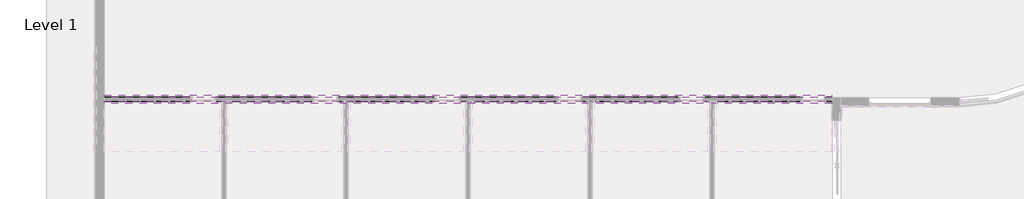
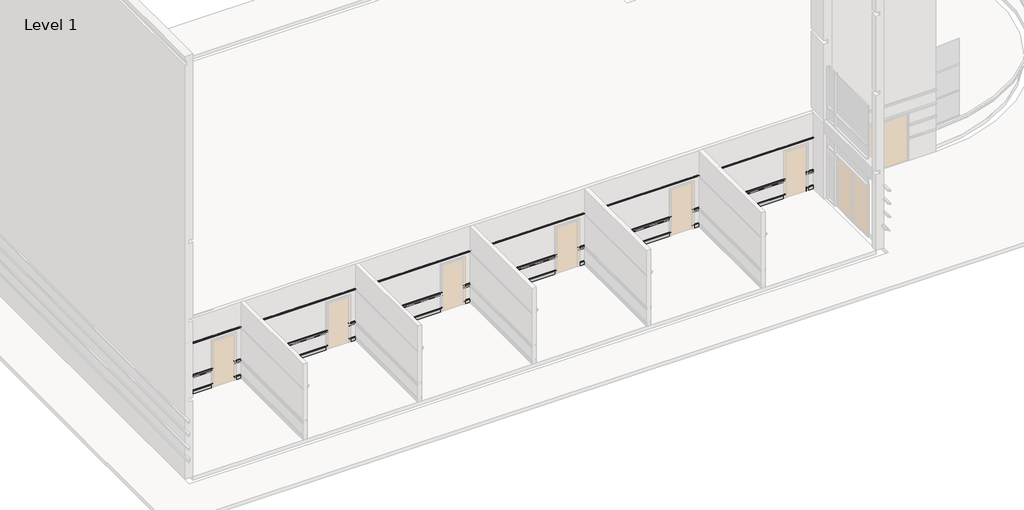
# One storey, part 17 of 20: 6 proxies.
"""IFC4 building model written with IfcOpenShell, lengths in millimetres."""

import ifcopenshell
import ifcopenshell.guid

model = None  # the IFC model being written
_history = None  # IfcOwnerHistory: only IFC2X3 demands one
_inside = {}  # id of a spatial element -> (the spatial element, [elements in it])
_under = {}  # id of a project, library or spatial element -> (it, [spatial elements below it])
_declared = {}  # id of a project -> (the project, [libraries it declares])
_typed = {}  # id of a type object -> (the type object, [elements of that type])
_made_of = {}  # id of a material, layer set ... -> (it, [elements and type objects made of it])


def new_model(schema):
    """Start an empty IFC model of exactly this schema.

    Asked for "IFC4X3", IfcOpenShell would pick the latest addendum, in which some entities
    have other attributes; the version numbers below select the first issue.
    IFC2X3 requires an IfcOwnerHistory on every rooted entity: one is made here for all.
    """
    global model, _history
    if schema == "IFC4X3":
        model = ifcopenshell.file(schema_version=(4, 3, 0, 0))
    else:
        model = ifcopenshell.file(schema=schema)
    _inside.clear()
    _under.clear()
    _declared.clear()
    _typed.clear()
    _made_of.clear()
    _history = None
    if model.schema == "IFC2X3":
        org = make("IfcOrganization", Name="unknown")
        user = make(
            "IfcPersonAndOrganization",
            ThePerson=make("IfcPerson", FamilyName="unknown"),
            TheOrganization=org,
        )
        app = make(
            "IfcApplication",
            ApplicationDeveloper=org,
            Version="unknown",
            ApplicationFullName="unknown",
            ApplicationIdentifier="unknown",
        )
        _history = make(
            "IfcOwnerHistory",
            OwningUser=user,
            OwningApplication=app,
            ChangeAction="ADDED",
            CreationDate=0,
        )
    return model


def make(cls, **values):
    """One entity of the class cls with the attributes given. An attribute that is None is left unset."""
    return model.create_entity(
        cls, **{name: value for name, value in values.items() if value is not None}
    )


def rooted(cls, **values):
    """An entity with a GlobalId (a new one), such as an element, a storey or a relation."""
    return make(cls, GlobalId=ifcopenshell.guid.new(), OwnerHistory=_history, **values)


def si_unit(unit_type, name, prefix=None):
    """IfcSIUnit, for example si_unit("LENGTHUNIT", "METRE", prefix="MILLI")."""
    return make("IfcSIUnit", UnitType=unit_type, Prefix=prefix, Name=name)


def assignment(units):
    """IfcUnitAssignment: the units of a project."""
    return None if units is None else make("IfcUnitAssignment", Units=units)


def point(xyz):
    """IfcCartesianPoint."""
    return None if xyz is None else make("IfcCartesianPoint", Coordinates=xyz)


def direction(xyz):
    """IfcDirection."""
    return None if xyz is None else make("IfcDirection", DirectionRatios=xyz)


def frame(location, z_axis=None, x_axis=None):
    """IfcAxis2Placement3D, a coordinate frame: its origin and axes. An axis left out is left unset."""
    return make(
        "IfcAxis2Placement3D",
        Location=point(location),
        Axis=direction(z_axis),
        RefDirection=direction(x_axis),
    )


def frame_2d(location, x_axis=None):
    """IfcAxis2Placement2D, a coordinate frame in the plane: its origin and x axis."""
    return make(
        "IfcAxis2Placement2D", Location=point(location), RefDirection=direction(x_axis)
    )


def origin():
    """The frame at (0, 0, 0) with its axes left unset."""
    return frame((0.0, 0.0, 0.0))


def place(relative_to, where):
    """IfcLocalPlacement: puts the frame where relative to a parent placement (None: the world)."""
    return make(
        "IfcLocalPlacement", PlacementRelTo=relative_to, RelativePlacement=where
    )


def context(
    kind, dimensions, precision=None, world=None, true_north=None, identifier=None
):
    """IfcGeometricRepresentationContext, for example the 3D "Model" context."""
    return make(
        "IfcGeometricRepresentationContext",
        ContextIdentifier=identifier,
        ContextType=kind,
        CoordinateSpaceDimension=dimensions,
        Precision=precision,
        WorldCoordinateSystem=world,
        TrueNorth=true_north,
    )


def project(units=None, contexts=None):
    """IfcProject with its units and contexts."""
    return rooted(
        "IfcProject",
        Name="project",
        RepresentationContexts=contexts,
        UnitsInContext=assignment(units),
    )


def spatial(cls, under=None, at=None, **own):
    """A site, building, storey or space (cls), placed at a placement, below another one or the project."""
    s = rooted(cls, ObjectPlacement=at, **own)
    if under is not None:
        _under.setdefault(under.id(), (under, []))[1].append(s)
    return s


def polyline(points):
    """IfcPolyline through the points."""
    return make("IfcPolyline", Points=[point(p) for p in points])


def circle_curve(where, radius):
    """IfcCircle in the frame where."""
    return make("IfcCircle", Position=where, Radius=radius)


def trimmed(basis, trim1, trim2, sense, master):
    """IfcTrimmedCurve: the piece of a basis curve between two trims."""
    return make(
        "IfcTrimmedCurve",
        BasisCurve=basis,
        Trim1=trim1,
        Trim2=trim2,
        SenseAgreement=sense,
        MasterRepresentation=master,
    )


def segment(curve, same_sense, transition):
    """IfcCompositeCurveSegment."""
    return make(
        "IfcCompositeCurveSegment",
        Transition=transition,
        SameSense=same_sense,
        ParentCurve=curve,
    )


def composite_curve(segments, self_intersect=None):
    """IfcCompositeCurve: segments joined end to end."""
    return make("IfcCompositeCurve", Segments=segments, SelfIntersect=self_intersect)


def outline(outer, holes=None, kind="AREA"):
    """IfcArbitraryClosedProfileDef: a profile drawn as a closed curve; with holes, ...WithVoids."""
    if holes is None:
        return make("IfcArbitraryClosedProfileDef", ProfileType=kind, OuterCurve=outer)
    return make(
        "IfcArbitraryProfileDefWithVoids",
        ProfileType=kind,
        OuterCurve=outer,
        InnerCurves=holes,
    )


def extrude(swept, where, along, depth):
    """IfcExtrudedAreaSolid: the profile swept, set in the frame where, extruded along a direction by depth."""
    return make(
        "IfcExtrudedAreaSolid",
        SweptArea=swept,
        Position=where,
        ExtrudedDirection=direction(along),
        Depth=depth,
    )


def shape(context_of_items, identifier, shape_type, items):
    """IfcShapeRepresentation: the items that make up one representation, for example the "Body"."""
    return make(
        "IfcShapeRepresentation",
        ContextOfItems=context_of_items,
        RepresentationIdentifier=identifier,
        RepresentationType=shape_type,
        Items=items,
    )


def made_of(thing, what):
    """Note that an element or type object is made of a material, layer set ...; save() writes the relation."""
    if what is not None:
        _made_of.setdefault(what.id(), (what, []))[1].append(thing)
    return thing


def element(
    cls,
    number,
    at=None,
    inside=None,
    cuts=None,
    type_object=None,
    material=None,
    context=None,
    identifier="Body",
    shape_type=None,
    held_by="IfcProductDefinitionShape",
    body=None,
    shapes=None,
    **own,
):
    """One element of the class cls, such as IfcWall. Its Tag is "e" and its number.

    at: its placement. inside: the storey or other place that contains it. cuts: it is an
    opening in that element (IfcRelVoidsElement). A single representation is given by context,
    identifier, shape_type and body (its items); several are given by shapes. held_by: the class
    of the entity that holds the representations. save() writes the other relations.
    """
    e = rooted(cls, Tag="e%d" % number, ObjectPlacement=at, **own)
    if body is not None:
        shapes = [shape(context, identifier, shape_type, body)]
    if shapes is not None:
        e.Representation = make(held_by, Representations=shapes)
    if inside is not None:
        _inside.setdefault(inside.id(), (inside, []))[1].append(e)
    if cuts is not None:
        rooted(
            "IfcRelVoidsElement", RelatingBuildingElement=cuts, RelatedOpeningElement=e
        )
    if type_object is not None:
        _typed.setdefault(type_object.id(), (type_object, []))[1].append(e)
    return made_of(e, material)


def aggregate(whole, parts):
    """IfcRelAggregates: a whole, such as a stair, and the parts it consists of."""
    return rooted("IfcRelAggregates", RelatingObject=whole, RelatedObjects=parts)


def save(model, path):
    """Write the relations noted so far, then the file.

    IfcRelAggregates (storeys below a building ...), IfcRelContainedInSpatialStructure (elements
    in a storey), IfcRelDefinesByType, IfcRelAssociatesMaterial and IfcRelDeclares: one each for
    every whole, place, type object, material and project.
    """
    for whole, parts in _under.values():
        aggregate(whole, parts)
    for where, things in _inside.values():
        rooted(
            "IfcRelContainedInSpatialStructure",
            RelatedElements=things,
            RelatingStructure=where,
        )
    for kind, things in _typed.values():
        rooted("IfcRelDefinesByType", RelatedObjects=things, RelatingType=kind)
    for what, things in _made_of.values():
        rooted("IfcRelAssociatesMaterial", RelatedObjects=things, RelatingMaterial=what)
    for by, libraries in _declared.values():
        rooted("IfcRelDeclares", RelatingContext=by, RelatedDefinitions=libraries)
    model.write(path)


model = new_model("IFC4")

# Units and contexts
model_context = context("Model", 3, world=origin())
ifc_project = project(units=[si_unit("LENGTHUNIT", "METRE", prefix="MILLI")], contexts=[model_context])

# Site, building, storey
site = spatial("IfcSite", under=ifc_project)
building = spatial("IfcBuilding", under=site)
storey = spatial("IfcBuildingStorey", under=building, Name="Level 1", Elevation=0.0)

# Proxies
placement = place(None, origin())
element("IfcBuildingElementProxy", 1, Name="Wall Sweeps", at=placement, inside=storey, context=model_context, shape_type="SweptSolid", body=[
    extrude(outline(composite_curve([segment(polyline([(-9640.0351682, 146.05), (-9637.840893, 146.5164076)]), True, "CONTINUOUS"), segment(trimmed(circle_curve(frame_2d((-9638.0059229, 147.2928122)), 0.79375), [point((-9637.840893, 146.5164076))], [point((-9637.4293377, 147.838329))], True, "CARTESIAN"), True, "CONTINUOUS"), segment(trimmed(circle_curve(frame_2d((-9630.5101681, 154.447453)), 9.5684601), [point((-9637.4293377, 147.838329))], [point((-9638.4249443, 159.8244174))], False, "CARTESIAN"), True, "CONTINUOUS"), segment(polyline([(-9638.4249443, 159.8244174), (-9631.5836514, 169.9015472)]), True, "CONTINUOUS"), segment(trimmed(circle_curve(frame_2d((-9636.8601681, 173.434375)), 6.35), [point((-9631.5836514, 169.9015472))], [point((-9632.9562226, 178.4425393))], True, "CARTESIAN"), True, "CONTINUOUS"), segment(polyline([(-9632.9562226, 178.4425393), (-9630.5101681, 184.15), (-9624.1601681, 184.15), (-9624.1601681, 139.7), (-9625.7476681, 138.1125), (-9625.7476681, 26.9875), (-9624.1601681, 25.4), (-9624.1601681, 0.0), (-9640.0351682, 0.0), (-9640.0351682, 146.05)]), True, "CONTINUOUS")], self_intersect=False)), frame((12403.9089721, 0.0, 0.0), z_axis=(1.0, 0.0, 0.0), x_axis=(0.0, 1.0, 0.0)), (0.0, 0.0, 1.0), 304.8),
    extrude(outline(composite_curve([segment(polyline([(-9640.0351682, 146.05), (-9637.840893, 146.5164076)]), True, "CONTINUOUS"), segment(trimmed(circle_curve(frame_2d((-9638.0059229, 147.2928122)), 0.79375), [point((-9637.840893, 146.5164076))], [point((-9637.4293377, 147.838329))], True, "CARTESIAN"), True, "CONTINUOUS"), segment(trimmed(circle_curve(frame_2d((-9630.5101681, 154.447453)), 9.5684601), [point((-9637.4293377, 147.838329))], [point((-9638.4249443, 159.8244174))], False, "CARTESIAN"), True, "CONTINUOUS"), segment(polyline([(-9638.4249443, 159.8244174), (-9631.5836514, 169.9015472)]), True, "CONTINUOUS"), segment(trimmed(circle_curve(frame_2d((-9636.8601681, 173.434375)), 6.35), [point((-9631.5836514, 169.9015472))], [point((-9632.9562226, 178.4425393))], True, "CARTESIAN"), True, "CONTINUOUS"), segment(polyline([(-9632.9562226, 178.4425393), (-9630.5101681, 184.15), (-9624.1601681, 184.15), (-9624.1601681, 139.7), (-9625.7476681, 138.1125), (-9625.7476681, 26.9875), (-9624.1601681, 25.4), (-9624.1601681, 0.0), (-9640.0351682, 0.0), (-9640.0351682, 146.05)]), True, "CONTINUOUS")], self_intersect=False)), frame((7422.8631388, 0.0, 0.0), z_axis=(1.0, 0.0, 0.0), x_axis=(0.0, 1.0, 0.0)), (0.0, 0.0, 1.0), 4066.6458333),
    extrude(outline(composite_curve([segment(polyline([(-9640.0351682, 146.05), (-9637.840893, 146.5164076)]), True, "CONTINUOUS"), segment(trimmed(circle_curve(frame_2d((-9638.0059229, 147.2928122)), 0.79375), [point((-9637.840893, 146.5164076))], [point((-9637.4293377, 147.838329))], True, "CARTESIAN"), True, "CONTINUOUS"), segment(trimmed(circle_curve(frame_2d((-9630.5101681, 154.447453)), 9.5684601), [point((-9637.4293377, 147.838329))], [point((-9638.4249443, 159.8244174))], False, "CARTESIAN"), True, "CONTINUOUS"), segment(polyline([(-9638.4249443, 159.8244174), (-9631.5836514, 169.9015472)]), True, "CONTINUOUS"), segment(trimmed(circle_curve(frame_2d((-9636.8601681, 173.434375)), 6.35), [point((-9631.5836514, 169.9015472))], [point((-9632.9562226, 178.4425393))], True, "CARTESIAN"), True, "CONTINUOUS"), segment(polyline([(-9632.9562226, 178.4425393), (-9630.5101681, 184.15), (-9624.1601681, 184.15), (-9624.1601681, 139.7), (-9625.7476681, 138.1125), (-9625.7476681, 26.9875), (-9624.1601681, 25.4), (-9624.1601681, 0.0), (-9640.0351682, 0.0), (-9640.0351682, 146.05)]), True, "CONTINUOUS")], self_intersect=False)), frame((2430.7048054, 0.0, 0.0), z_axis=(1.0, 0.0, 0.0), x_axis=(0.0, 1.0, 0.0)), (0.0, 0.0, 1.0), 4077.7583333),
    extrude(outline(composite_curve([segment(polyline([(-9640.0351682, 146.05), (-9637.840893, 146.5164076)]), True, "CONTINUOUS"), segment(trimmed(circle_curve(frame_2d((-9638.0059229, 147.2928122)), 0.79375), [point((-9637.840893, 146.5164076))], [point((-9637.4293377, 147.838329))], True, "CARTESIAN"), True, "CONTINUOUS"), segment(trimmed(circle_curve(frame_2d((-9630.5101681, 154.447453)), 9.5684601), [point((-9637.4293377, 147.838329))], [point((-9638.4249443, 159.8244174))], False, "CARTESIAN"), True, "CONTINUOUS"), segment(polyline([(-9638.4249443, 159.8244174), (-9631.5836514, 169.9015472)]), True, "CONTINUOUS"), segment(trimmed(circle_curve(frame_2d((-9636.8601681, 173.434375)), 6.35), [point((-9631.5836514, 169.9015472))], [point((-9632.9562226, 178.4425393))], True, "CARTESIAN"), True, "CONTINUOUS"), segment(polyline([(-9632.9562226, 178.4425393), (-9630.5101681, 184.15), (-9624.1601681, 184.15), (-9624.1601681, 139.7), (-9625.7476681, 138.1125), (-9625.7476681, 26.9875), (-9624.1601681, 25.4), (-9624.1601681, 0.0), (-9640.0351682, 0.0), (-9640.0351682, 146.05)]), True, "CONTINUOUS")], self_intersect=False)), frame((-2561.4535279, 0.0, 0.0), z_axis=(1.0, 0.0, 0.0), x_axis=(0.0, 1.0, 0.0)), (0.0, 0.0, 1.0), 4077.7583333),
    extrude(outline(composite_curve([segment(polyline([(-9640.0351682, 146.05), (-9637.840893, 146.5164076)]), True, "CONTINUOUS"), segment(trimmed(circle_curve(frame_2d((-9638.0059229, 147.2928122)), 0.79375), [point((-9637.840893, 146.5164076))], [point((-9637.4293377, 147.838329))], True, "CARTESIAN"), True, "CONTINUOUS"), segment(trimmed(circle_curve(frame_2d((-9630.5101681, 154.447453)), 9.5684601), [point((-9637.4293377, 147.838329))], [point((-9638.4249443, 159.8244174))], False, "CARTESIAN"), True, "CONTINUOUS"), segment(polyline([(-9638.4249443, 159.8244174), (-9631.5836514, 169.9015472)]), True, "CONTINUOUS"), segment(trimmed(circle_curve(frame_2d((-9636.8601681, 173.434375)), 6.35), [point((-9631.5836514, 169.9015472))], [point((-9632.9562226, 178.4425393))], True, "CARTESIAN"), True, "CONTINUOUS"), segment(polyline([(-9632.9562226, 178.4425393), (-9630.5101681, 184.15), (-9624.1601681, 184.15), (-9624.1601681, 139.7), (-9625.7476681, 138.1125), (-9625.7476681, 26.9875), (-9624.1601681, 25.4), (-9624.1601681, 0.0), (-9640.0351682, 0.0), (-9640.0351682, 146.05)]), True, "CONTINUOUS")], self_intersect=False)), frame((-7553.6118612, 0.0, 0.0), z_axis=(1.0, 0.0, 0.0), x_axis=(0.0, 1.0, 0.0)), (0.0, 0.0, 1.0), 4077.7583333),
    extrude(outline(composite_curve([segment(polyline([(-9640.0351682, 146.05), (-9637.840893, 146.5164076)]), True, "CONTINUOUS"), segment(trimmed(circle_curve(frame_2d((-9638.0059229, 147.2928122)), 0.79375), [point((-9637.840893, 146.5164076))], [point((-9637.4293377, 147.838329))], True, "CARTESIAN"), True, "CONTINUOUS"), segment(trimmed(circle_curve(frame_2d((-9630.5101681, 154.447453)), 9.5684601), [point((-9637.4293377, 147.838329))], [point((-9638.4249443, 159.8244174))], False, "CARTESIAN"), True, "CONTINUOUS"), segment(polyline([(-9638.4249443, 159.8244174), (-9631.5836514, 169.9015472)]), True, "CONTINUOUS"), segment(trimmed(circle_curve(frame_2d((-9636.8601681, 173.434375)), 6.35), [point((-9631.5836514, 169.9015472))], [point((-9632.9562226, 178.4425393))], True, "CARTESIAN"), True, "CONTINUOUS"), segment(polyline([(-9632.9562226, 178.4425393), (-9630.5101681, 184.15), (-9624.1601681, 184.15), (-9624.1601681, 139.7), (-9625.7476681, 138.1125), (-9625.7476681, 26.9875), (-9624.1601681, 25.4), (-9624.1601681, 0.0), (-9640.0351682, 0.0), (-9640.0351682, 146.05)]), True, "CONTINUOUS")], self_intersect=False)), frame((-12545.7701946, 0.0, 0.0), z_axis=(1.0, 0.0, 0.0), x_axis=(0.0, 1.0, 0.0)), (0.0, 0.0, 1.0), 4077.7583333),
    extrude(outline(composite_curve([segment(polyline([(-9640.0351682, 146.05), (-9637.840893, 146.5164076)]), True, "CONTINUOUS"), segment(trimmed(circle_curve(frame_2d((-9638.0059229, 147.2928122)), 0.79375), [point((-9637.840893, 146.5164076))], [point((-9637.4293377, 147.838329))], True, "CARTESIAN"), True, "CONTINUOUS"), segment(trimmed(circle_curve(frame_2d((-9630.5101681, 154.447453)), 9.5684601), [point((-9637.4293377, 147.838329))], [point((-9638.4249443, 159.8244174))], False, "CARTESIAN"), True, "CONTINUOUS"), segment(polyline([(-9638.4249443, 159.8244174), (-9631.5836514, 169.9015472)]), True, "CONTINUOUS"), segment(trimmed(circle_curve(frame_2d((-9636.8601681, 173.434375)), 6.35), [point((-9631.5836514, 169.9015472))], [point((-9632.9562226, 178.4425393))], True, "CARTESIAN"), True, "CONTINUOUS"), segment(polyline([(-9632.9562226, 178.4425393), (-9630.5101681, 184.15), (-9624.1601681, 184.15), (-9624.1601681, 139.7), (-9625.7476681, 138.1125), (-9625.7476681, 26.9875), (-9624.1601681, 25.4), (-9624.1601681, 0.0), (-9640.0351682, 0.0), (-9640.0351682, 146.05)]), True, "CONTINUOUS")], self_intersect=False)), frame((-17066.4410279, 0.0, 0.0), z_axis=(1.0, 0.0, 0.0), x_axis=(0.0, 1.0, 0.0)), (0.0, 0.0, 1.0), 3606.2708333),
])
element("IfcBuildingElementProxy", 2, Name="Wall Sweeps", at=placement, inside=storey, context=model_context, shape_type="SweptSolid", body=[
    extrude(outline(composite_curve([segment(polyline([(-9452.710168, 146.05), (-9452.710168, 0.0), (-9468.5851681, 0.0), (-9468.5851681, 25.4), (-9466.9976681, 26.9875), (-9466.9976681, 138.1125), (-9468.5851681, 139.7), (-9468.5851681, 184.15), (-9462.2351681, 184.15), (-9459.7891135, 178.4425393)]), True, "CONTINUOUS"), segment(trimmed(circle_curve(frame_2d((-9455.8851681, 173.434375)), 6.35), [point((-9459.7891135, 178.4425393))], [point((-9461.1616847, 169.9015472))], True, "CARTESIAN"), True, "CONTINUOUS"), segment(polyline([(-9461.1616847, 169.9015472), (-9454.3203919, 159.8244174)]), True, "CONTINUOUS"), segment(trimmed(circle_curve(frame_2d((-9462.2351681, 154.447453)), 9.5684601), [point((-9454.3203919, 159.8244174))], [point((-9455.3159985, 147.838329))], False, "CARTESIAN"), True, "CONTINUOUS"), segment(trimmed(circle_curve(frame_2d((-9454.7394132, 147.2928122)), 0.79375), [point((-9455.3159985, 147.838329))], [point((-9454.9044431, 146.5164076))], True, "CARTESIAN"), True, "CONTINUOUS"), segment(polyline([(-9454.9044431, 146.5164076), (-9452.710168, 146.05)]), True, "CONTINUOUS")], self_intersect=False)), frame((-17066.4410279, 0.0, 0.0), z_axis=(1.0, 0.0, 0.0), x_axis=(0.0, 1.0, 0.0)), (0.0, 0.0, 1.0), 3606.2708333),
    extrude(outline(composite_curve([segment(polyline([(-9452.710168, 146.05), (-9452.710168, 0.0), (-9468.5851681, 0.0), (-9468.5851681, 25.4), (-9466.9976681, 26.9875), (-9466.9976681, 138.1125), (-9468.5851681, 139.7), (-9468.5851681, 184.15), (-9462.2351681, 184.15), (-9459.7891135, 178.4425393)]), True, "CONTINUOUS"), segment(trimmed(circle_curve(frame_2d((-9455.8851681, 173.434375)), 6.35), [point((-9459.7891135, 178.4425393))], [point((-9461.1616847, 169.9015472))], True, "CARTESIAN"), True, "CONTINUOUS"), segment(polyline([(-9461.1616847, 169.9015472), (-9454.3203919, 159.8244174)]), True, "CONTINUOUS"), segment(trimmed(circle_curve(frame_2d((-9462.2351681, 154.447453)), 9.5684601), [point((-9454.3203919, 159.8244174))], [point((-9455.3159985, 147.838329))], False, "CARTESIAN"), True, "CONTINUOUS"), segment(trimmed(circle_curve(frame_2d((-9454.7394132, 147.2928122)), 0.79375), [point((-9455.3159985, 147.838329))], [point((-9454.9044431, 146.5164076))], True, "CARTESIAN"), True, "CONTINUOUS"), segment(polyline([(-9454.9044431, 146.5164076), (-9452.710168, 146.05)]), True, "CONTINUOUS")], self_intersect=False)), frame((-12545.7701946, 0.0, 0.0), z_axis=(1.0, 0.0, 0.0), x_axis=(0.0, 1.0, 0.0)), (0.0, 0.0, 1.0), 4077.7583333),
    extrude(outline(composite_curve([segment(polyline([(-9452.710168, 146.05), (-9452.710168, 0.0), (-9468.5851681, 0.0), (-9468.5851681, 25.4), (-9466.9976681, 26.9875), (-9466.9976681, 138.1125), (-9468.5851681, 139.7), (-9468.5851681, 184.15), (-9462.2351681, 184.15), (-9459.7891135, 178.4425393)]), True, "CONTINUOUS"), segment(trimmed(circle_curve(frame_2d((-9455.8851681, 173.434375)), 6.35), [point((-9459.7891135, 178.4425393))], [point((-9461.1616847, 169.9015472))], True, "CARTESIAN"), True, "CONTINUOUS"), segment(polyline([(-9461.1616847, 169.9015472), (-9454.3203919, 159.8244174)]), True, "CONTINUOUS"), segment(trimmed(circle_curve(frame_2d((-9462.2351681, 154.447453)), 9.5684601), [point((-9454.3203919, 159.8244174))], [point((-9455.3159985, 147.838329))], False, "CARTESIAN"), True, "CONTINUOUS"), segment(trimmed(circle_curve(frame_2d((-9454.7394132, 147.2928122)), 0.79375), [point((-9455.3159985, 147.838329))], [point((-9454.9044431, 146.5164076))], True, "CARTESIAN"), True, "CONTINUOUS"), segment(polyline([(-9454.9044431, 146.5164076), (-9452.710168, 146.05)]), True, "CONTINUOUS")], self_intersect=False)), frame((-7553.6118612, 0.0, 0.0), z_axis=(1.0, 0.0, 0.0), x_axis=(0.0, 1.0, 0.0)), (0.0, 0.0, 1.0), 4077.7583333),
    extrude(outline(composite_curve([segment(polyline([(-9452.710168, 146.05), (-9452.710168, 0.0), (-9468.5851681, 0.0), (-9468.5851681, 25.4), (-9466.9976681, 26.9875), (-9466.9976681, 138.1125), (-9468.5851681, 139.7), (-9468.5851681, 184.15), (-9462.2351681, 184.15), (-9459.7891135, 178.4425393)]), True, "CONTINUOUS"), segment(trimmed(circle_curve(frame_2d((-9455.8851681, 173.434375)), 6.35), [point((-9459.7891135, 178.4425393))], [point((-9461.1616847, 169.9015472))], True, "CARTESIAN"), True, "CONTINUOUS"), segment(polyline([(-9461.1616847, 169.9015472), (-9454.3203919, 159.8244174)]), True, "CONTINUOUS"), segment(trimmed(circle_curve(frame_2d((-9462.2351681, 154.447453)), 9.5684601), [point((-9454.3203919, 159.8244174))], [point((-9455.3159985, 147.838329))], False, "CARTESIAN"), True, "CONTINUOUS"), segment(trimmed(circle_curve(frame_2d((-9454.7394132, 147.2928122)), 0.79375), [point((-9455.3159985, 147.838329))], [point((-9454.9044431, 146.5164076))], True, "CARTESIAN"), True, "CONTINUOUS"), segment(polyline([(-9454.9044431, 146.5164076), (-9452.710168, 146.05)]), True, "CONTINUOUS")], self_intersect=False)), frame((-2561.4535279, 0.0, 0.0), z_axis=(1.0, 0.0, 0.0), x_axis=(0.0, 1.0, 0.0)), (0.0, 0.0, 1.0), 4077.7583333),
    extrude(outline(composite_curve([segment(polyline([(-9452.710168, 146.05), (-9452.710168, 0.0), (-9468.5851681, 0.0), (-9468.5851681, 25.4), (-9466.9976681, 26.9875), (-9466.9976681, 138.1125), (-9468.5851681, 139.7), (-9468.5851681, 184.15), (-9462.2351681, 184.15), (-9459.7891135, 178.4425393)]), True, "CONTINUOUS"), segment(trimmed(circle_curve(frame_2d((-9455.8851681, 173.434375)), 6.35), [point((-9459.7891135, 178.4425393))], [point((-9461.1616847, 169.9015472))], True, "CARTESIAN"), True, "CONTINUOUS"), segment(polyline([(-9461.1616847, 169.9015472), (-9454.3203919, 159.8244174)]), True, "CONTINUOUS"), segment(trimmed(circle_curve(frame_2d((-9462.2351681, 154.447453)), 9.5684601), [point((-9454.3203919, 159.8244174))], [point((-9455.3159985, 147.838329))], False, "CARTESIAN"), True, "CONTINUOUS"), segment(trimmed(circle_curve(frame_2d((-9454.7394132, 147.2928122)), 0.79375), [point((-9455.3159985, 147.838329))], [point((-9454.9044431, 146.5164076))], True, "CARTESIAN"), True, "CONTINUOUS"), segment(polyline([(-9454.9044431, 146.5164076), (-9452.710168, 146.05)]), True, "CONTINUOUS")], self_intersect=False)), frame((2430.7048054, 0.0, 0.0), z_axis=(1.0, 0.0, 0.0), x_axis=(0.0, 1.0, 0.0)), (0.0, 0.0, 1.0), 4077.7583333),
    extrude(outline(composite_curve([segment(polyline([(-9452.710168, 146.05), (-9452.710168, 0.0), (-9468.5851681, 0.0), (-9468.5851681, 25.4), (-9466.9976681, 26.9875), (-9466.9976681, 138.1125), (-9468.5851681, 139.7), (-9468.5851681, 184.15), (-9462.2351681, 184.15), (-9459.7891135, 178.4425393)]), True, "CONTINUOUS"), segment(trimmed(circle_curve(frame_2d((-9455.8851681, 173.434375)), 6.35), [point((-9459.7891135, 178.4425393))], [point((-9461.1616847, 169.9015472))], True, "CARTESIAN"), True, "CONTINUOUS"), segment(polyline([(-9461.1616847, 169.9015472), (-9454.3203919, 159.8244174)]), True, "CONTINUOUS"), segment(trimmed(circle_curve(frame_2d((-9462.2351681, 154.447453)), 9.5684601), [point((-9454.3203919, 159.8244174))], [point((-9455.3159985, 147.838329))], False, "CARTESIAN"), True, "CONTINUOUS"), segment(trimmed(circle_curve(frame_2d((-9454.7394132, 147.2928122)), 0.79375), [point((-9455.3159985, 147.838329))], [point((-9454.9044431, 146.5164076))], True, "CARTESIAN"), True, "CONTINUOUS"), segment(polyline([(-9454.9044431, 146.5164076), (-9452.710168, 146.05)]), True, "CONTINUOUS")], self_intersect=False)), frame((7422.8631388, 0.0, 0.0), z_axis=(1.0, 0.0, 0.0), x_axis=(0.0, 1.0, 0.0)), (0.0, 0.0, 1.0), 4066.6458333),
    extrude(outline(composite_curve([segment(polyline([(-9452.710168, 146.05), (-9452.710168, 0.0), (-9468.5851681, 0.0), (-9468.5851681, 25.4), (-9466.9976681, 26.9875), (-9466.9976681, 138.1125), (-9468.5851681, 139.7), (-9468.5851681, 184.15), (-9462.2351681, 184.15), (-9459.7891135, 178.4425393)]), True, "CONTINUOUS"), segment(trimmed(circle_curve(frame_2d((-9455.8851681, 173.434375)), 6.35), [point((-9459.7891135, 178.4425393))], [point((-9461.1616847, 169.9015472))], True, "CARTESIAN"), True, "CONTINUOUS"), segment(polyline([(-9461.1616847, 169.9015472), (-9454.3203919, 159.8244174)]), True, "CONTINUOUS"), segment(trimmed(circle_curve(frame_2d((-9462.2351681, 154.447453)), 9.5684601), [point((-9454.3203919, 159.8244174))], [point((-9455.3159985, 147.838329))], False, "CARTESIAN"), True, "CONTINUOUS"), segment(trimmed(circle_curve(frame_2d((-9454.7394132, 147.2928122)), 0.79375), [point((-9455.3159985, 147.838329))], [point((-9454.9044431, 146.5164076))], True, "CARTESIAN"), True, "CONTINUOUS"), segment(polyline([(-9454.9044431, 146.5164076), (-9452.710168, 146.05)]), True, "CONTINUOUS")], self_intersect=False)), frame((12403.9089721, 0.0, 0.0), z_axis=(1.0, 0.0, 0.0), x_axis=(0.0, 1.0, 0.0)), (0.0, 0.0, 1.0), 304.8),
])
element("IfcBuildingElementProxy", 3, Name="Wall Sweeps", at=placement, inside=storey, context=model_context, shape_type="SweptSolid", body=[
    extrude(outline(composite_curve([segment(polyline([(-9625.7476681, 781.05), (-9624.1601681, 779.4625), (-9624.1601681, 762.0), (-9644.7976681, 762.0), (-9644.7976681, 781.05), (-9642.4164181, 781.05)]), True, "CONTINUOUS"), segment(trimmed(circle_curve(frame_2d((-9637.3963023, 783.43125)), 5.55625), [point((-9642.4164181, 781.05))], [point((-9641.3251643, 787.3601121))], False, "CARTESIAN"), True, "CONTINUOUS"), segment(trimmed(circle_curve(frame_2d((-9649.1119874, 796.1135672)), 11.7156984), [point((-9641.3251643, 787.3601121))], [point((-9637.3963023, 796.13125))], True, "CARTESIAN"), True, "CONTINUOUS"), segment(polyline([(-9637.3963023, 796.13125), (-9635.2726681, 796.13125), (-9635.2726681, 867.56875), (-9637.3963023, 867.56875)]), True, "CONTINUOUS"), segment(trimmed(circle_curve(frame_2d((-9649.1119874, 867.5864328)), 11.7156984), [point((-9637.3963023, 867.56875))], [point((-9641.3251643, 876.3398879))], True, "CARTESIAN"), True, "CONTINUOUS"), segment(trimmed(circle_curve(frame_2d((-9637.3963023, 880.26875)), 5.55625), [point((-9641.3251643, 876.3398879))], [point((-9642.4164181, 882.65))], False, "CARTESIAN"), True, "CONTINUOUS"), segment(polyline([(-9642.4164181, 882.65), (-9644.7976681, 882.65), (-9644.7976681, 901.7), (-9624.1601681, 901.7), (-9624.1601681, 884.2375), (-9625.7476681, 882.65), (-9625.7476681, 781.05)]), True, "CONTINUOUS")], self_intersect=False)), frame((12403.9089721, 0.0, 0.0), z_axis=(1.0, 0.0, 0.0), x_axis=(0.0, 1.0, 0.0)), (0.0, 0.0, 1.0), 304.8),
    extrude(outline(composite_curve([segment(polyline([(-9625.7476681, 781.05), (-9624.1601681, 779.4625), (-9624.1601681, 762.0), (-9644.7976681, 762.0), (-9644.7976681, 781.05), (-9642.4164181, 781.05)]), True, "CONTINUOUS"), segment(trimmed(circle_curve(frame_2d((-9637.3963023, 783.43125)), 5.55625), [point((-9642.4164181, 781.05))], [point((-9641.3251643, 787.3601121))], False, "CARTESIAN"), True, "CONTINUOUS"), segment(trimmed(circle_curve(frame_2d((-9649.1119874, 796.1135672)), 11.7156984), [point((-9641.3251643, 787.3601121))], [point((-9637.3963023, 796.13125))], True, "CARTESIAN"), True, "CONTINUOUS"), segment(polyline([(-9637.3963023, 796.13125), (-9635.2726681, 796.13125), (-9635.2726681, 867.56875), (-9637.3963023, 867.56875)]), True, "CONTINUOUS"), segment(trimmed(circle_curve(frame_2d((-9649.1119874, 867.5864328)), 11.7156984), [point((-9637.3963023, 867.56875))], [point((-9641.3251643, 876.3398879))], True, "CARTESIAN"), True, "CONTINUOUS"), segment(trimmed(circle_curve(frame_2d((-9637.3963023, 880.26875)), 5.55625), [point((-9641.3251643, 876.3398879))], [point((-9642.4164181, 882.65))], False, "CARTESIAN"), True, "CONTINUOUS"), segment(polyline([(-9642.4164181, 882.65), (-9644.7976681, 882.65), (-9644.7976681, 901.7), (-9624.1601681, 901.7), (-9624.1601681, 884.2375), (-9625.7476681, 882.65), (-9625.7476681, 781.05)]), True, "CONTINUOUS")], self_intersect=False)), frame((7422.8631388, 0.0, 0.0), z_axis=(1.0, 0.0, 0.0), x_axis=(0.0, 1.0, 0.0)), (0.0, 0.0, 1.0), 4066.6458333),
    extrude(outline(composite_curve([segment(polyline([(-9625.7476681, 781.05), (-9624.1601681, 779.4625), (-9624.1601681, 762.0), (-9644.7976681, 762.0), (-9644.7976681, 781.05), (-9642.4164181, 781.05)]), True, "CONTINUOUS"), segment(trimmed(circle_curve(frame_2d((-9637.3963023, 783.43125)), 5.55625), [point((-9642.4164181, 781.05))], [point((-9641.3251643, 787.3601121))], False, "CARTESIAN"), True, "CONTINUOUS"), segment(trimmed(circle_curve(frame_2d((-9649.1119874, 796.1135672)), 11.7156984), [point((-9641.3251643, 787.3601121))], [point((-9637.3963023, 796.13125))], True, "CARTESIAN"), True, "CONTINUOUS"), segment(polyline([(-9637.3963023, 796.13125), (-9635.2726681, 796.13125), (-9635.2726681, 867.56875), (-9637.3963023, 867.56875)]), True, "CONTINUOUS"), segment(trimmed(circle_curve(frame_2d((-9649.1119874, 867.5864328)), 11.7156984), [point((-9637.3963023, 867.56875))], [point((-9641.3251643, 876.3398879))], True, "CARTESIAN"), True, "CONTINUOUS"), segment(trimmed(circle_curve(frame_2d((-9637.3963023, 880.26875)), 5.55625), [point((-9641.3251643, 876.3398879))], [point((-9642.4164181, 882.65))], False, "CARTESIAN"), True, "CONTINUOUS"), segment(polyline([(-9642.4164181, 882.65), (-9644.7976681, 882.65), (-9644.7976681, 901.7), (-9624.1601681, 901.7), (-9624.1601681, 884.2375), (-9625.7476681, 882.65), (-9625.7476681, 781.05)]), True, "CONTINUOUS")], self_intersect=False)), frame((2430.7048054, 0.0, 0.0), z_axis=(1.0, 0.0, 0.0), x_axis=(0.0, 1.0, 0.0)), (0.0, 0.0, 1.0), 4077.7583333),
    extrude(outline(composite_curve([segment(polyline([(-9625.7476681, 781.05), (-9624.1601681, 779.4625), (-9624.1601681, 762.0), (-9644.7976681, 762.0), (-9644.7976681, 781.05), (-9642.4164181, 781.05)]), True, "CONTINUOUS"), segment(trimmed(circle_curve(frame_2d((-9637.3963023, 783.43125)), 5.55625), [point((-9642.4164181, 781.05))], [point((-9641.3251643, 787.3601121))], False, "CARTESIAN"), True, "CONTINUOUS"), segment(trimmed(circle_curve(frame_2d((-9649.1119874, 796.1135672)), 11.7156984), [point((-9641.3251643, 787.3601121))], [point((-9637.3963023, 796.13125))], True, "CARTESIAN"), True, "CONTINUOUS"), segment(polyline([(-9637.3963023, 796.13125), (-9635.2726681, 796.13125), (-9635.2726681, 867.56875), (-9637.3963023, 867.56875)]), True, "CONTINUOUS"), segment(trimmed(circle_curve(frame_2d((-9649.1119874, 867.5864328)), 11.7156984), [point((-9637.3963023, 867.56875))], [point((-9641.3251643, 876.3398879))], True, "CARTESIAN"), True, "CONTINUOUS"), segment(trimmed(circle_curve(frame_2d((-9637.3963023, 880.26875)), 5.55625), [point((-9641.3251643, 876.3398879))], [point((-9642.4164181, 882.65))], False, "CARTESIAN"), True, "CONTINUOUS"), segment(polyline([(-9642.4164181, 882.65), (-9644.7976681, 882.65), (-9644.7976681, 901.7), (-9624.1601681, 901.7), (-9624.1601681, 884.2375), (-9625.7476681, 882.65), (-9625.7476681, 781.05)]), True, "CONTINUOUS")], self_intersect=False)), frame((-2561.4535279, 0.0, 0.0), z_axis=(1.0, 0.0, 0.0), x_axis=(0.0, 1.0, 0.0)), (0.0, 0.0, 1.0), 4077.7583333),
    extrude(outline(composite_curve([segment(polyline([(-9625.7476681, 781.05), (-9624.1601681, 779.4625), (-9624.1601681, 762.0), (-9644.7976681, 762.0), (-9644.7976681, 781.05), (-9642.4164181, 781.05)]), True, "CONTINUOUS"), segment(trimmed(circle_curve(frame_2d((-9637.3963023, 783.43125)), 5.55625), [point((-9642.4164181, 781.05))], [point((-9641.3251643, 787.3601121))], False, "CARTESIAN"), True, "CONTINUOUS"), segment(trimmed(circle_curve(frame_2d((-9649.1119874, 796.1135672)), 11.7156984), [point((-9641.3251643, 787.3601121))], [point((-9637.3963023, 796.13125))], True, "CARTESIAN"), True, "CONTINUOUS"), segment(polyline([(-9637.3963023, 796.13125), (-9635.2726681, 796.13125), (-9635.2726681, 867.56875), (-9637.3963023, 867.56875)]), True, "CONTINUOUS"), segment(trimmed(circle_curve(frame_2d((-9649.1119874, 867.5864328)), 11.7156984), [point((-9637.3963023, 867.56875))], [point((-9641.3251643, 876.3398879))], True, "CARTESIAN"), True, "CONTINUOUS"), segment(trimmed(circle_curve(frame_2d((-9637.3963023, 880.26875)), 5.55625), [point((-9641.3251643, 876.3398879))], [point((-9642.4164181, 882.65))], False, "CARTESIAN"), True, "CONTINUOUS"), segment(polyline([(-9642.4164181, 882.65), (-9644.7976681, 882.65), (-9644.7976681, 901.7), (-9624.1601681, 901.7), (-9624.1601681, 884.2375), (-9625.7476681, 882.65), (-9625.7476681, 781.05)]), True, "CONTINUOUS")], self_intersect=False)), frame((-7553.6118612, 0.0, 0.0), z_axis=(1.0, 0.0, 0.0), x_axis=(0.0, 1.0, 0.0)), (0.0, 0.0, 1.0), 4077.7583333),
    extrude(outline(composite_curve([segment(polyline([(-9625.7476681, 781.05), (-9624.1601681, 779.4625), (-9624.1601681, 762.0), (-9644.7976681, 762.0), (-9644.7976681, 781.05), (-9642.4164181, 781.05)]), True, "CONTINUOUS"), segment(trimmed(circle_curve(frame_2d((-9637.3963023, 783.43125)), 5.55625), [point((-9642.4164181, 781.05))], [point((-9641.3251643, 787.3601121))], False, "CARTESIAN"), True, "CONTINUOUS"), segment(trimmed(circle_curve(frame_2d((-9649.1119874, 796.1135672)), 11.7156984), [point((-9641.3251643, 787.3601121))], [point((-9637.3963023, 796.13125))], True, "CARTESIAN"), True, "CONTINUOUS"), segment(polyline([(-9637.3963023, 796.13125), (-9635.2726681, 796.13125), (-9635.2726681, 867.56875), (-9637.3963023, 867.56875)]), True, "CONTINUOUS"), segment(trimmed(circle_curve(frame_2d((-9649.1119874, 867.5864328)), 11.7156984), [point((-9637.3963023, 867.56875))], [point((-9641.3251643, 876.3398879))], True, "CARTESIAN"), True, "CONTINUOUS"), segment(trimmed(circle_curve(frame_2d((-9637.3963023, 880.26875)), 5.55625), [point((-9641.3251643, 876.3398879))], [point((-9642.4164181, 882.65))], False, "CARTESIAN"), True, "CONTINUOUS"), segment(polyline([(-9642.4164181, 882.65), (-9644.7976681, 882.65), (-9644.7976681, 901.7), (-9624.1601681, 901.7), (-9624.1601681, 884.2375), (-9625.7476681, 882.65), (-9625.7476681, 781.05)]), True, "CONTINUOUS")], self_intersect=False)), frame((-12545.7701946, 0.0, 0.0), z_axis=(1.0, 0.0, 0.0), x_axis=(0.0, 1.0, 0.0)), (0.0, 0.0, 1.0), 4077.7583333),
    extrude(outline(composite_curve([segment(polyline([(-9625.7476681, 781.05), (-9624.1601681, 779.4625), (-9624.1601681, 762.0), (-9644.7976681, 762.0), (-9644.7976681, 781.05), (-9642.4164181, 781.05)]), True, "CONTINUOUS"), segment(trimmed(circle_curve(frame_2d((-9637.3963023, 783.43125)), 5.55625), [point((-9642.4164181, 781.05))], [point((-9641.3251643, 787.3601121))], False, "CARTESIAN"), True, "CONTINUOUS"), segment(trimmed(circle_curve(frame_2d((-9649.1119874, 796.1135672)), 11.7156984), [point((-9641.3251643, 787.3601121))], [point((-9637.3963023, 796.13125))], True, "CARTESIAN"), True, "CONTINUOUS"), segment(polyline([(-9637.3963023, 796.13125), (-9635.2726681, 796.13125), (-9635.2726681, 867.56875), (-9637.3963023, 867.56875)]), True, "CONTINUOUS"), segment(trimmed(circle_curve(frame_2d((-9649.1119874, 867.5864328)), 11.7156984), [point((-9637.3963023, 867.56875))], [point((-9641.3251643, 876.3398879))], True, "CARTESIAN"), True, "CONTINUOUS"), segment(trimmed(circle_curve(frame_2d((-9637.3963023, 880.26875)), 5.55625), [point((-9641.3251643, 876.3398879))], [point((-9642.4164181, 882.65))], False, "CARTESIAN"), True, "CONTINUOUS"), segment(polyline([(-9642.4164181, 882.65), (-9644.7976681, 882.65), (-9644.7976681, 901.7), (-9624.1601681, 901.7), (-9624.1601681, 884.2375), (-9625.7476681, 882.65), (-9625.7476681, 781.05)]), True, "CONTINUOUS")], self_intersect=False)), frame((-17066.4410279, 0.0, 0.0), z_axis=(1.0, 0.0, 0.0), x_axis=(0.0, 1.0, 0.0)), (0.0, 0.0, 1.0), 3606.2708333),
])
element("IfcBuildingElementProxy", 4, Name="Wall Sweeps", at=placement, inside=storey, context=model_context, shape_type="SweptSolid", body=[
    extrude(outline(composite_curve([segment(polyline([(-9466.9976681, 781.05), (-9466.9976681, 882.65), (-9468.5851681, 884.2375), (-9468.5851681, 901.7), (-9447.9476681, 901.7), (-9447.9476681, 882.65), (-9450.3289181, 882.65)]), True, "CONTINUOUS"), segment(trimmed(circle_curve(frame_2d((-9455.3490339, 880.26875)), 5.55625), [point((-9450.3289181, 882.65))], [point((-9451.4201718, 876.3398879))], False, "CARTESIAN"), True, "CONTINUOUS"), segment(trimmed(circle_curve(frame_2d((-9443.6333488, 867.5864328)), 11.7156984), [point((-9451.4201718, 876.3398879))], [point((-9455.3490339, 867.56875))], True, "CARTESIAN"), True, "CONTINUOUS"), segment(polyline([(-9455.3490339, 867.56875), (-9457.4726681, 867.56875), (-9457.4726681, 796.13125), (-9455.3490339, 796.13125)]), True, "CONTINUOUS"), segment(trimmed(circle_curve(frame_2d((-9443.6333488, 796.1135672)), 11.7156984), [point((-9455.3490339, 796.13125))], [point((-9451.4201718, 787.3601121))], True, "CARTESIAN"), True, "CONTINUOUS"), segment(trimmed(circle_curve(frame_2d((-9455.3490339, 783.43125)), 5.55625), [point((-9451.4201718, 787.3601121))], [point((-9450.3289181, 781.05))], False, "CARTESIAN"), True, "CONTINUOUS"), segment(polyline([(-9450.3289181, 781.05), (-9447.9476681, 781.05), (-9447.9476681, 762.0), (-9468.5851681, 762.0), (-9468.5851681, 779.4625), (-9466.9976681, 781.05)]), True, "CONTINUOUS")], self_intersect=False)), frame((-17066.4410279, 0.0, 0.0), z_axis=(1.0, 0.0, 0.0), x_axis=(0.0, 1.0, 0.0)), (0.0, 0.0, 1.0), 3606.2708333),
    extrude(outline(composite_curve([segment(polyline([(-9466.9976681, 781.05), (-9466.9976681, 882.65), (-9468.5851681, 884.2375), (-9468.5851681, 901.7), (-9447.9476681, 901.7), (-9447.9476681, 882.65), (-9450.3289181, 882.65)]), True, "CONTINUOUS"), segment(trimmed(circle_curve(frame_2d((-9455.3490339, 880.26875)), 5.55625), [point((-9450.3289181, 882.65))], [point((-9451.4201718, 876.3398879))], False, "CARTESIAN"), True, "CONTINUOUS"), segment(trimmed(circle_curve(frame_2d((-9443.6333488, 867.5864328)), 11.7156984), [point((-9451.4201718, 876.3398879))], [point((-9455.3490339, 867.56875))], True, "CARTESIAN"), True, "CONTINUOUS"), segment(polyline([(-9455.3490339, 867.56875), (-9457.4726681, 867.56875), (-9457.4726681, 796.13125), (-9455.3490339, 796.13125)]), True, "CONTINUOUS"), segment(trimmed(circle_curve(frame_2d((-9443.6333488, 796.1135672)), 11.7156984), [point((-9455.3490339, 796.13125))], [point((-9451.4201718, 787.3601121))], True, "CARTESIAN"), True, "CONTINUOUS"), segment(trimmed(circle_curve(frame_2d((-9455.3490339, 783.43125)), 5.55625), [point((-9451.4201718, 787.3601121))], [point((-9450.3289181, 781.05))], False, "CARTESIAN"), True, "CONTINUOUS"), segment(polyline([(-9450.3289181, 781.05), (-9447.9476681, 781.05), (-9447.9476681, 762.0), (-9468.5851681, 762.0), (-9468.5851681, 779.4625), (-9466.9976681, 781.05)]), True, "CONTINUOUS")], self_intersect=False)), frame((-12545.7701946, 0.0, 0.0), z_axis=(1.0, 0.0, 0.0), x_axis=(0.0, 1.0, 0.0)), (0.0, 0.0, 1.0), 4077.7583333),
    extrude(outline(composite_curve([segment(polyline([(-9466.9976681, 781.05), (-9466.9976681, 882.65), (-9468.5851681, 884.2375), (-9468.5851681, 901.7), (-9447.9476681, 901.7), (-9447.9476681, 882.65), (-9450.3289181, 882.65)]), True, "CONTINUOUS"), segment(trimmed(circle_curve(frame_2d((-9455.3490339, 880.26875)), 5.55625), [point((-9450.3289181, 882.65))], [point((-9451.4201718, 876.3398879))], False, "CARTESIAN"), True, "CONTINUOUS"), segment(trimmed(circle_curve(frame_2d((-9443.6333488, 867.5864328)), 11.7156984), [point((-9451.4201718, 876.3398879))], [point((-9455.3490339, 867.56875))], True, "CARTESIAN"), True, "CONTINUOUS"), segment(polyline([(-9455.3490339, 867.56875), (-9457.4726681, 867.56875), (-9457.4726681, 796.13125), (-9455.3490339, 796.13125)]), True, "CONTINUOUS"), segment(trimmed(circle_curve(frame_2d((-9443.6333488, 796.1135672)), 11.7156984), [point((-9455.3490339, 796.13125))], [point((-9451.4201718, 787.3601121))], True, "CARTESIAN"), True, "CONTINUOUS"), segment(trimmed(circle_curve(frame_2d((-9455.3490339, 783.43125)), 5.55625), [point((-9451.4201718, 787.3601121))], [point((-9450.3289181, 781.05))], False, "CARTESIAN"), True, "CONTINUOUS"), segment(polyline([(-9450.3289181, 781.05), (-9447.9476681, 781.05), (-9447.9476681, 762.0), (-9468.5851681, 762.0), (-9468.5851681, 779.4625), (-9466.9976681, 781.05)]), True, "CONTINUOUS")], self_intersect=False)), frame((-7553.6118612, 0.0, 0.0), z_axis=(1.0, 0.0, 0.0), x_axis=(0.0, 1.0, 0.0)), (0.0, 0.0, 1.0), 4077.7583333),
    extrude(outline(composite_curve([segment(polyline([(-9466.9976681, 781.05), (-9466.9976681, 882.65), (-9468.5851681, 884.2375), (-9468.5851681, 901.7), (-9447.9476681, 901.7), (-9447.9476681, 882.65), (-9450.3289181, 882.65)]), True, "CONTINUOUS"), segment(trimmed(circle_curve(frame_2d((-9455.3490339, 880.26875)), 5.55625), [point((-9450.3289181, 882.65))], [point((-9451.4201718, 876.3398879))], False, "CARTESIAN"), True, "CONTINUOUS"), segment(trimmed(circle_curve(frame_2d((-9443.6333488, 867.5864328)), 11.7156984), [point((-9451.4201718, 876.3398879))], [point((-9455.3490339, 867.56875))], True, "CARTESIAN"), True, "CONTINUOUS"), segment(polyline([(-9455.3490339, 867.56875), (-9457.4726681, 867.56875), (-9457.4726681, 796.13125), (-9455.3490339, 796.13125)]), True, "CONTINUOUS"), segment(trimmed(circle_curve(frame_2d((-9443.6333488, 796.1135672)), 11.7156984), [point((-9455.3490339, 796.13125))], [point((-9451.4201718, 787.3601121))], True, "CARTESIAN"), True, "CONTINUOUS"), segment(trimmed(circle_curve(frame_2d((-9455.3490339, 783.43125)), 5.55625), [point((-9451.4201718, 787.3601121))], [point((-9450.3289181, 781.05))], False, "CARTESIAN"), True, "CONTINUOUS"), segment(polyline([(-9450.3289181, 781.05), (-9447.9476681, 781.05), (-9447.9476681, 762.0), (-9468.5851681, 762.0), (-9468.5851681, 779.4625), (-9466.9976681, 781.05)]), True, "CONTINUOUS")], self_intersect=False)), frame((-2561.4535279, 0.0, 0.0), z_axis=(1.0, 0.0, 0.0), x_axis=(0.0, 1.0, 0.0)), (0.0, 0.0, 1.0), 4077.7583333),
    extrude(outline(composite_curve([segment(polyline([(-9466.9976681, 781.05), (-9466.9976681, 882.65), (-9468.5851681, 884.2375), (-9468.5851681, 901.7), (-9447.9476681, 901.7), (-9447.9476681, 882.65), (-9450.3289181, 882.65)]), True, "CONTINUOUS"), segment(trimmed(circle_curve(frame_2d((-9455.3490339, 880.26875)), 5.55625), [point((-9450.3289181, 882.65))], [point((-9451.4201718, 876.3398879))], False, "CARTESIAN"), True, "CONTINUOUS"), segment(trimmed(circle_curve(frame_2d((-9443.6333488, 867.5864328)), 11.7156984), [point((-9451.4201718, 876.3398879))], [point((-9455.3490339, 867.56875))], True, "CARTESIAN"), True, "CONTINUOUS"), segment(polyline([(-9455.3490339, 867.56875), (-9457.4726681, 867.56875), (-9457.4726681, 796.13125), (-9455.3490339, 796.13125)]), True, "CONTINUOUS"), segment(trimmed(circle_curve(frame_2d((-9443.6333488, 796.1135672)), 11.7156984), [point((-9455.3490339, 796.13125))], [point((-9451.4201718, 787.3601121))], True, "CARTESIAN"), True, "CONTINUOUS"), segment(trimmed(circle_curve(frame_2d((-9455.3490339, 783.43125)), 5.55625), [point((-9451.4201718, 787.3601121))], [point((-9450.3289181, 781.05))], False, "CARTESIAN"), True, "CONTINUOUS"), segment(polyline([(-9450.3289181, 781.05), (-9447.9476681, 781.05), (-9447.9476681, 762.0), (-9468.5851681, 762.0), (-9468.5851681, 779.4625), (-9466.9976681, 781.05)]), True, "CONTINUOUS")], self_intersect=False)), frame((2430.7048054, 0.0, 0.0), z_axis=(1.0, 0.0, 0.0), x_axis=(0.0, 1.0, 0.0)), (0.0, 0.0, 1.0), 4077.7583333),
    extrude(outline(composite_curve([segment(polyline([(-9466.9976681, 781.05), (-9466.9976681, 882.65), (-9468.5851681, 884.2375), (-9468.5851681, 901.7), (-9447.9476681, 901.7), (-9447.9476681, 882.65), (-9450.3289181, 882.65)]), True, "CONTINUOUS"), segment(trimmed(circle_curve(frame_2d((-9455.3490339, 880.26875)), 5.55625), [point((-9450.3289181, 882.65))], [point((-9451.4201718, 876.3398879))], False, "CARTESIAN"), True, "CONTINUOUS"), segment(trimmed(circle_curve(frame_2d((-9443.6333488, 867.5864328)), 11.7156984), [point((-9451.4201718, 876.3398879))], [point((-9455.3490339, 867.56875))], True, "CARTESIAN"), True, "CONTINUOUS"), segment(polyline([(-9455.3490339, 867.56875), (-9457.4726681, 867.56875), (-9457.4726681, 796.13125), (-9455.3490339, 796.13125)]), True, "CONTINUOUS"), segment(trimmed(circle_curve(frame_2d((-9443.6333488, 796.1135672)), 11.7156984), [point((-9455.3490339, 796.13125))], [point((-9451.4201718, 787.3601121))], True, "CARTESIAN"), True, "CONTINUOUS"), segment(trimmed(circle_curve(frame_2d((-9455.3490339, 783.43125)), 5.55625), [point((-9451.4201718, 787.3601121))], [point((-9450.3289181, 781.05))], False, "CARTESIAN"), True, "CONTINUOUS"), segment(polyline([(-9450.3289181, 781.05), (-9447.9476681, 781.05), (-9447.9476681, 762.0), (-9468.5851681, 762.0), (-9468.5851681, 779.4625), (-9466.9976681, 781.05)]), True, "CONTINUOUS")], self_intersect=False)), frame((7422.8631388, 0.0, 0.0), z_axis=(1.0, 0.0, 0.0), x_axis=(0.0, 1.0, 0.0)), (0.0, 0.0, 1.0), 4066.6458333),
    extrude(outline(composite_curve([segment(polyline([(-9466.9976681, 781.05), (-9466.9976681, 882.65), (-9468.5851681, 884.2375), (-9468.5851681, 901.7), (-9447.9476681, 901.7), (-9447.9476681, 882.65), (-9450.3289181, 882.65)]), True, "CONTINUOUS"), segment(trimmed(circle_curve(frame_2d((-9455.3490339, 880.26875)), 5.55625), [point((-9450.3289181, 882.65))], [point((-9451.4201718, 876.3398879))], False, "CARTESIAN"), True, "CONTINUOUS"), segment(trimmed(circle_curve(frame_2d((-9443.6333488, 867.5864328)), 11.7156984), [point((-9451.4201718, 876.3398879))], [point((-9455.3490339, 867.56875))], True, "CARTESIAN"), True, "CONTINUOUS"), segment(polyline([(-9455.3490339, 867.56875), (-9457.4726681, 867.56875), (-9457.4726681, 796.13125), (-9455.3490339, 796.13125)]), True, "CONTINUOUS"), segment(trimmed(circle_curve(frame_2d((-9443.6333488, 796.1135672)), 11.7156984), [point((-9455.3490339, 796.13125))], [point((-9451.4201718, 787.3601121))], True, "CARTESIAN"), True, "CONTINUOUS"), segment(trimmed(circle_curve(frame_2d((-9455.3490339, 783.43125)), 5.55625), [point((-9451.4201718, 787.3601121))], [point((-9450.3289181, 781.05))], False, "CARTESIAN"), True, "CONTINUOUS"), segment(polyline([(-9450.3289181, 781.05), (-9447.9476681, 781.05), (-9447.9476681, 762.0), (-9468.5851681, 762.0), (-9468.5851681, 779.4625), (-9466.9976681, 781.05)]), True, "CONTINUOUS")], self_intersect=False)), frame((12403.9089721, 0.0, 0.0), z_axis=(1.0, 0.0, 0.0), x_axis=(0.0, 1.0, 0.0)), (0.0, 0.0, 1.0), 304.8),
])
element("IfcBuildingElementProxy", 5, Name="Wall Sweeps", at=placement, inside=storey, context=model_context, shape_type="SweptSolid", body=[
    extrude(outline(composite_curve([segment(polyline([(-9692.3533306, 2438.399973), (-9624.1601681, 2351.8919306), (-9624.1601681, 2327.275), (-9631.3430353, 2327.275)]), True, "CONTINUOUS"), segment(trimmed(circle_curve(frame_2d((-9638.5964546, 2327.2589154)), 7.2534372), [point((-9631.3430353, 2327.275))], [point((-9635.3191612, 2333.7297498))], True, "CARTESIAN"), True, "CONTINUOUS"), segment(polyline([(-9635.3191612, 2333.7297498), (-9635.3191612, 2338.0157037)]), True, "CONTINUOUS"), segment(trimmed(circle_curve(frame_2d((-9631.9576385, 2347.9606001)), 10.4976568), [point((-9635.3191612, 2338.0157037))], [point((-9642.445205, 2348.4207604))], False, "CARTESIAN"), True, "CONTINUOUS"), segment(polyline([(-9642.445205, 2348.4207604), (-9646.0340459, 2348.4207604), (-9646.0340459, 2353.4554653), (-9649.2614208, 2353.4554653)]), True, "CONTINUOUS"), segment(trimmed(circle_curve(frame_2d((-9696.2098228, 2350.2346746)), 47.0587499), [point((-9649.2614208, 2353.4554653))], [point((-9674.7576826, 2392.1194168))], True, "CARTESIAN"), True, "CONTINUOUS"), segment(polyline([(-9674.7576826, 2392.1194168), (-9681.9999119, 2396.8442936)]), True, "CONTINUOUS"), segment(trimmed(circle_curve(frame_2d((-9673.6917206, 2417.0589994)), 21.8554426), [point((-9681.9999119, 2396.8442936))], [point((-9695.5290675, 2416.1698146))], False, "CARTESIAN"), True, "CONTINUOUS"), segment(polyline([(-9695.5290675, 2416.1698146), (-9695.5290675, 2421.6202934), (-9698.2976313, 2421.6202934)]), True, "CONTINUOUS"), segment(trimmed(circle_curve(frame_2d((-9699.239958, 2429.6314026)), 8.0663405), [point((-9698.2976313, 2421.6202934))], [point((-9707.0953242, 2427.7986257))], False, "CARTESIAN"), True, "CONTINUOUS"), segment(trimmed(circle_curve(frame_2d((-9714.3793091, 2423.9641253)), 8.2316359), [point((-9707.0953242, 2427.7986257))], [point((-9710.5448087, 2431.2481102))], True, "CARTESIAN"), True, "CONTINUOUS"), segment(polyline([(-9710.5448087, 2431.2481102), (-9713.0601681, 2431.2481102), (-9713.0601681, 2438.399973), (-9692.3533306, 2438.399973)]), True, "CONTINUOUS")], self_intersect=False)), frame((-17066.4410279, 0.0, 0.0), z_axis=(1.0, 0.0, 0.0), x_axis=(0.0, 1.0, 0.0)), (0.0, 0.0, 1.0), 29775.15),
])
element("IfcBuildingElementProxy", 6, Name="Wall Sweeps", at=placement, inside=storey, context=model_context, shape_type="SweptSolid", body=[
    extrude(outline(composite_curve([segment(polyline([(-9400.3920055, 2438.399973), (-9379.6851681, 2438.399973), (-9379.6851681, 2431.2481102), (-9382.2005275, 2431.2481102)]), True, "CONTINUOUS"), segment(trimmed(circle_curve(frame_2d((-9378.366027, 2423.9641253)), 8.2316359), [point((-9382.2005275, 2431.2481102))], [point((-9385.6500119, 2427.7986257))], True, "CARTESIAN"), True, "CONTINUOUS"), segment(trimmed(circle_curve(frame_2d((-9393.5053781, 2429.6314026)), 8.0663405), [point((-9385.6500119, 2427.7986257))], [point((-9394.4477048, 2421.6202934))], False, "CARTESIAN"), True, "CONTINUOUS"), segment(polyline([(-9394.4477048, 2421.6202934), (-9397.2162686, 2421.6202934), (-9397.2162686, 2416.1698146)]), True, "CONTINUOUS"), segment(trimmed(circle_curve(frame_2d((-9419.0536155, 2417.0589994)), 21.8554426), [point((-9397.2162686, 2416.1698146))], [point((-9410.7454242, 2396.8442936))], False, "CARTESIAN"), True, "CONTINUOUS"), segment(polyline([(-9410.7454242, 2396.8442936), (-9417.9876535, 2392.1194168)]), True, "CONTINUOUS"), segment(trimmed(circle_curve(frame_2d((-9396.5355134, 2350.2346746)), 47.0587499), [point((-9417.9876535, 2392.1194168))], [point((-9443.4839154, 2353.4554653))], True, "CARTESIAN"), True, "CONTINUOUS"), segment(polyline([(-9443.4839154, 2353.4554653), (-9446.7112903, 2353.4554653), (-9446.7112903, 2348.4207604), (-9450.3001312, 2348.4207604)]), True, "CONTINUOUS"), segment(trimmed(circle_curve(frame_2d((-9460.7876976, 2347.9606001)), 10.4976568), [point((-9450.3001312, 2348.4207604))], [point((-9457.426175, 2338.0157037))], False, "CARTESIAN"), True, "CONTINUOUS"), segment(polyline([(-9457.426175, 2338.0157037), (-9457.426175, 2333.7297498)]), True, "CONTINUOUS"), segment(trimmed(circle_curve(frame_2d((-9454.1488815, 2327.2589154)), 7.2534372), [point((-9457.426175, 2333.7297498))], [point((-9461.4023009, 2327.275))], True, "CARTESIAN"), True, "CONTINUOUS"), segment(polyline([(-9461.4023009, 2327.275), (-9468.5851681, 2327.275), (-9468.5851681, 2351.8919306), (-9400.3920055, 2438.399973)]), True, "CONTINUOUS")], self_intersect=False)), frame((-17066.4410279, 0.0, 0.0), z_axis=(1.0, 0.0, 0.0), x_axis=(0.0, 1.0, 0.0)), (0.0, 0.0, 1.0), 29775.15),
])

save(model, "model.ifc")
